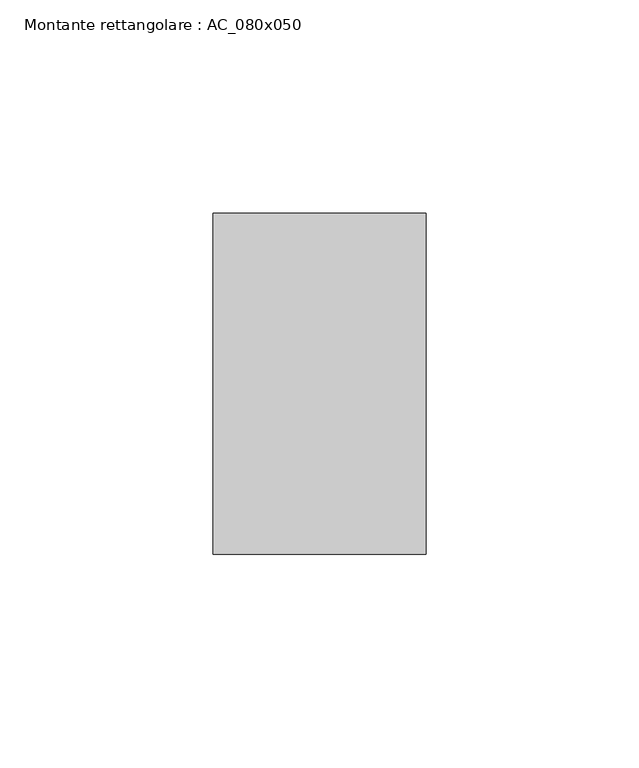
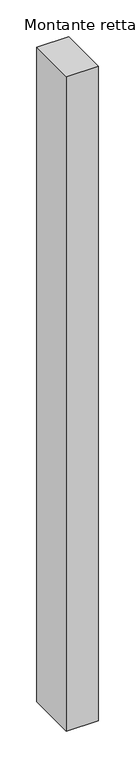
"""IFC4 building model written with IfcOpenShell, lengths in millimetres: member geometry, Montante rettangolare : AC_080x050."""

from ifc_helpers import new_model, si_unit, frame, origin, place, context, project, spatial, polyline, outline, extrude, source, transform, mapped, element, save


def montante_rettangolare_ac_080x050_49b4d1b0(model_context):
    return source(origin(), model_context, "Body", "SweptSolid", [
        extrude(outline(polyline([(0.0, 40.0), (0.0, -40.0), (-50.0, -40.0), (-50.0, 40.0), (0.0, 40.0)])), frame((0.0, 0.0, -1085.0), z_axis=(0.0, 0.0, 1.0), x_axis=(1.0, 0.0, 0.0)), (0.0, 0.0, 1.0), 1085.0),
    ])


if __name__ == "__main__":
    model = new_model("IFC4")
    model_context = context("Model", 3, world=origin())
    ifc_project = project(units=[si_unit("LENGTHUNIT", "METRE", prefix="MILLI")], contexts=[model_context])
    site = spatial("IfcSite", under=ifc_project)
    building = spatial("IfcBuilding", under=site)
    placement = place(None, origin())
    montante_rettangolare_ac_080x050_shape = montante_rettangolare_ac_080x050_49b4d1b0(model_context)
    element("IfcMember", 1, ObjectType="Montante rettangolare : AC_080x050", at=placement, inside=building, context=model_context, shape_type="MappedRepresentation", body=[
        mapped(montante_rettangolare_ac_080x050_shape, transform((0.0, 0.0, 0.0), x_axis=(1.0, 0.0, 0.0), y_axis=(0.0, 1.0, 0.0), z_axis=(0.0, 0.0, 1.0))),
    ])
    save(model, "model.ifc")
